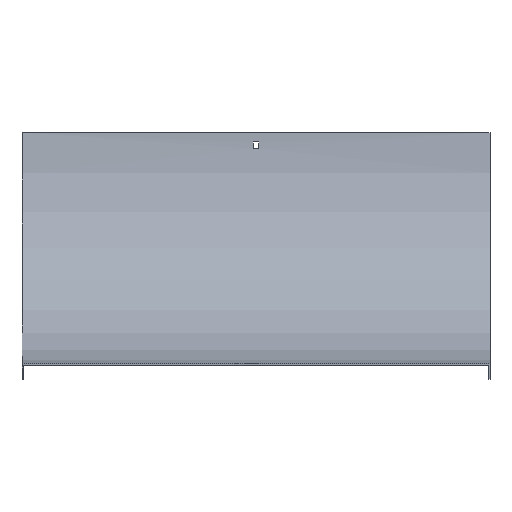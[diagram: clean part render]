
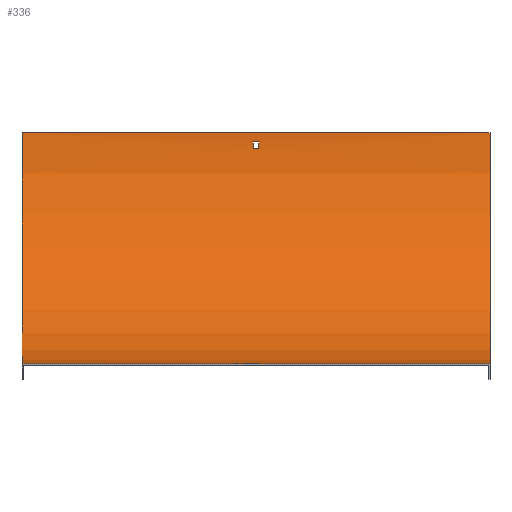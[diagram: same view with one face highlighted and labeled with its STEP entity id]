
A CAD part, top view. The second image highlights one B-rep face of the part: STEP entity #336.
In plain terms, the highlighted cylindrical face has radius 298.5 mm (diameter 597 mm), a partial arc.
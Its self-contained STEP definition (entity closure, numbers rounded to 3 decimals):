
#3 = DIRECTION ( 'NONE',  ( 0., 1., 0. ) ) ;
#9 = VECTOR ( 'NONE', #402, 1000. ) ;
#10 = CARTESIAN_POINT ( 'NONE',  ( 3.25, 286.5, -298.259 ) ) ;
#11 = CIRCLE ( 'NONE', #361, 298.5 ) ;
#19 = VERTEX_POINT ( 'NONE', #566 ) ;
#20 = DIRECTION ( 'NONE',  ( 1., 0., 0. ) ) ;
#27 = DIRECTION ( 'NONE',  ( 0., 0., 1. ) ) ;
#32 = CARTESIAN_POINT ( 'NONE',  ( 301.5, 298.5, 0. ) ) ;
#38 = ORIENTED_EDGE ( 'NONE', *, *, #400, .T. ) ;
#43 = EDGE_CURVE ( 'NONE', #579, #113, #284, .T. ) ;
#48 = VERTEX_POINT ( 'NONE', #198 ) ;
#62 = AXIS2_PLACEMENT_3D ( 'NONE', #548, #395, #588 ) ;
#66 = CARTESIAN_POINT ( 'NONE',  ( -3.25, 277.5, -297.76 ) ) ;
#94 = AXIS2_PLACEMENT_3D ( 'NONE', #569, #330, #105 ) ;
#100 = CARTESIAN_POINT ( 'NONE',  ( 301.5, 0., 0. ) ) ;
#101 = EDGE_CURVE ( 'NONE', #104, #411, #466, .T. ) ;
#103 = AXIS2_PLACEMENT_3D ( 'NONE', #426, #163, #384 ) ;
#104 = VERTEX_POINT ( 'NONE', #528 ) ;
#105 = DIRECTION ( 'NONE',  ( 0., 0., 1. ) ) ;
#113 = VERTEX_POINT ( 'NONE', #10 ) ;
#117 = FACE_OUTER_BOUND ( 'NONE', #260, .T. ) ;
#120 = EDGE_CURVE ( 'NONE', #353, #407, #295, .T. ) ;
#134 = LINE ( 'NONE', #259, #315 ) ;
#137 = VERTEX_POINT ( 'NONE', #534 ) ;
#138 = ORIENTED_EDGE ( 'NONE', *, *, #120, .T. ) ;
#145 = AXIS2_PLACEMENT_3D ( 'NONE', #487, #348, #577 ) ;
#146 = DIRECTION ( 'NONE',  ( -1., 0., 0. ) ) ;
#150 = DIRECTION ( 'NONE',  ( -1., 0., 0. ) ) ;
#155 = VECTOR ( 'NONE', #146, 1000. ) ;
#163 = DIRECTION ( 'NONE',  ( -1., 0., 0. ) ) ;
#166 = LINE ( 'NONE', #222, #323 ) ;
#182 = ORIENTED_EDGE ( 'NONE', *, *, #294, .T. ) ;
#186 = CYLINDRICAL_SURFACE ( 'NONE', #223, 298.5 ) ;
#194 = ORIENTED_EDGE ( 'NONE', *, *, #43, .F. ) ;
#198 = CARTESIAN_POINT ( 'NONE',  ( 301.5, 0., 0. ) ) ;
#200 = CIRCLE ( 'NONE', #274, 298.5 ) ;
#207 = CARTESIAN_POINT ( 'NONE',  ( 301.5, 0.241, -12. ) ) ;
#214 = VECTOR ( 'NONE', #390, 1000. ) ;
#219 = ORIENTED_EDGE ( 'NONE', *, *, #433, .F. ) ;
#221 = EDGE_CURVE ( 'NONE', #349, #48, #200, .T. ) ;
#222 = CARTESIAN_POINT ( 'NONE',  ( 301.5, 277.5, -297.76 ) ) ;
#223 = AXIS2_PLACEMENT_3D ( 'NONE', #459, #516, #476 ) ;
#233 = EDGE_CURVE ( 'NONE', #349, #435, #134, .T. ) ;
#236 = CARTESIAN_POINT ( 'NONE',  ( -3.25, 298.5, 0. ) ) ;
#253 = ORIENTED_EDGE ( 'NONE', *, *, #352, .F. ) ;
#259 = CARTESIAN_POINT ( 'NONE',  ( 301.5, 298.5, -298.5 ) ) ;
#260 = EDGE_LOOP ( 'NONE', ( #182, #219, #597, #539 ) ) ;
#274 = AXIS2_PLACEMENT_3D ( 'NONE', #32, #446, #27 ) ;
#277 = EDGE_LOOP ( 'NONE', ( #318, #253, #194, #551 ) ) ;
#279 = EDGE_CURVE ( 'NONE', #289, #579, #166, .T. ) ;
#281 = EDGE_CURVE ( 'NONE', #407, #104, #391, .T. ) ;
#284 = CIRCLE ( 'NONE', #94, 298.5 ) ;
#286 = CIRCLE ( 'NONE', #62, 298.5 ) ;
#289 = VERTEX_POINT ( 'NONE', #66 ) ;
#294 = EDGE_CURVE ( 'NONE', #435, #137, #286, .T. ) ;
#295 = CIRCLE ( 'NONE', #145, 298.5 ) ;
#315 = VECTOR ( 'NONE', #363, 1000. ) ;
#316 = CARTESIAN_POINT ( 'NONE',  ( -301.5, 298.5, -298.5 ) ) ;
#318 = ORIENTED_EDGE ( 'NONE', *, *, #603, .F. ) ;
#323 = VECTOR ( 'NONE', #20, 1000. ) ;
#330 = DIRECTION ( 'NONE',  ( 1., 0., 0. ) ) ;
#333 = LINE ( 'NONE', #350, #214 ) ;
#336 = ADVANCED_FACE ( 'NONE', ( #117, #596, #595 ), #186, .F. ) ;
#348 = DIRECTION ( 'NONE',  ( 1., 0., 0. ) ) ;
#349 = VERTEX_POINT ( 'NONE', #398 ) ;
#350 = CARTESIAN_POINT ( 'NONE',  ( 301.5, 286.5, -298.259 ) ) ;
#352 = EDGE_CURVE ( 'NONE', #113, #19, #333, .T. ) ;
#353 = VERTEX_POINT ( 'NONE', #584 ) ;
#358 = LINE ( 'NONE', #207, #510 ) ;
#361 = AXIS2_PLACEMENT_3D ( 'NONE', #236, #150, #3 ) ;
#363 = DIRECTION ( 'NONE',  ( -1., 0., 0. ) ) ;
#384 = DIRECTION ( 'NONE',  ( 0., 0., -1. ) ) ;
#390 = DIRECTION ( 'NONE',  ( -1., 0., 0. ) ) ;
#391 = LINE ( 'NONE', #540, #9 ) ;
#395 = DIRECTION ( 'NONE',  ( -1., 0., 0. ) ) ;
#398 = CARTESIAN_POINT ( 'NONE',  ( 301.5, 298.5, -298.5 ) ) ;
#400 = EDGE_CURVE ( 'NONE', #411, #353, #358, .T. ) ;
#402 = DIRECTION ( 'NONE',  ( 1., 0., 0. ) ) ;
#407 = VERTEX_POINT ( 'NONE', #503 ) ;
#411 = VERTEX_POINT ( 'NONE', #448 ) ;
#412 = ORIENTED_EDGE ( 'NONE', *, *, #281, .T. ) ;
#426 = CARTESIAN_POINT ( 'NONE',  ( 3.25, 298.5, 0. ) ) ;
#433 = EDGE_CURVE ( 'NONE', #48, #137, #600, .T. ) ;
#435 = VERTEX_POINT ( 'NONE', #316 ) ;
#446 = DIRECTION ( 'NONE',  ( -1., 0., 0. ) ) ;
#448 = CARTESIAN_POINT ( 'NONE',  ( 3.25, 0.241, -12. ) ) ;
#459 = CARTESIAN_POINT ( 'NONE',  ( 301.5, 298.5, 0. ) ) ;
#466 = CIRCLE ( 'NONE', #103, 298.5 ) ;
#476 = DIRECTION ( 'NONE',  ( 0., 0., 1. ) ) ;
#487 = CARTESIAN_POINT ( 'NONE',  ( -3.25, 298.5, 0. ) ) ;
#503 = CARTESIAN_POINT ( 'NONE',  ( -3.25, 0.74, -21. ) ) ;
#506 = DIRECTION ( 'NONE',  ( -1., 0., 0. ) ) ;
#510 = VECTOR ( 'NONE', #506, 1000. ) ;
#516 = DIRECTION ( 'NONE',  ( -1., 0., 0. ) ) ;
#528 = CARTESIAN_POINT ( 'NONE',  ( 3.25, 0.74, -21. ) ) ;
#529 = CARTESIAN_POINT ( 'NONE',  ( 3.25, 277.5, -297.76 ) ) ;
#534 = CARTESIAN_POINT ( 'NONE',  ( -301.5, 0., 0. ) ) ;
#539 = ORIENTED_EDGE ( 'NONE', *, *, #233, .T. ) ;
#540 = CARTESIAN_POINT ( 'NONE',  ( 301.5, 0.74, -21. ) ) ;
#548 = CARTESIAN_POINT ( 'NONE',  ( -301.5, 298.5, 0. ) ) ;
#551 = ORIENTED_EDGE ( 'NONE', *, *, #279, .F. ) ;
#566 = CARTESIAN_POINT ( 'NONE',  ( -3.25, 286.5, -298.259 ) ) ;
#569 = CARTESIAN_POINT ( 'NONE',  ( 3.25, 298.5, 0. ) ) ;
#573 = ORIENTED_EDGE ( 'NONE', *, *, #101, .T. ) ;
#577 = DIRECTION ( 'NONE',  ( 0., 0., 1. ) ) ;
#579 = VERTEX_POINT ( 'NONE', #529 ) ;
#584 = CARTESIAN_POINT ( 'NONE',  ( -3.25, 0.241, -12. ) ) ;
#586 = EDGE_LOOP ( 'NONE', ( #38, #138, #412, #573 ) ) ;
#588 = DIRECTION ( 'NONE',  ( 0., 0., 1. ) ) ;
#595 = FACE_BOUND ( 'NONE', #277, .T. ) ;
#596 = FACE_BOUND ( 'NONE', #586, .T. ) ;
#597 = ORIENTED_EDGE ( 'NONE', *, *, #221, .F. ) ;
#600 = LINE ( 'NONE', #100, #155 ) ;
#603 = EDGE_CURVE ( 'NONE', #19, #289, #11, .T. ) ;
